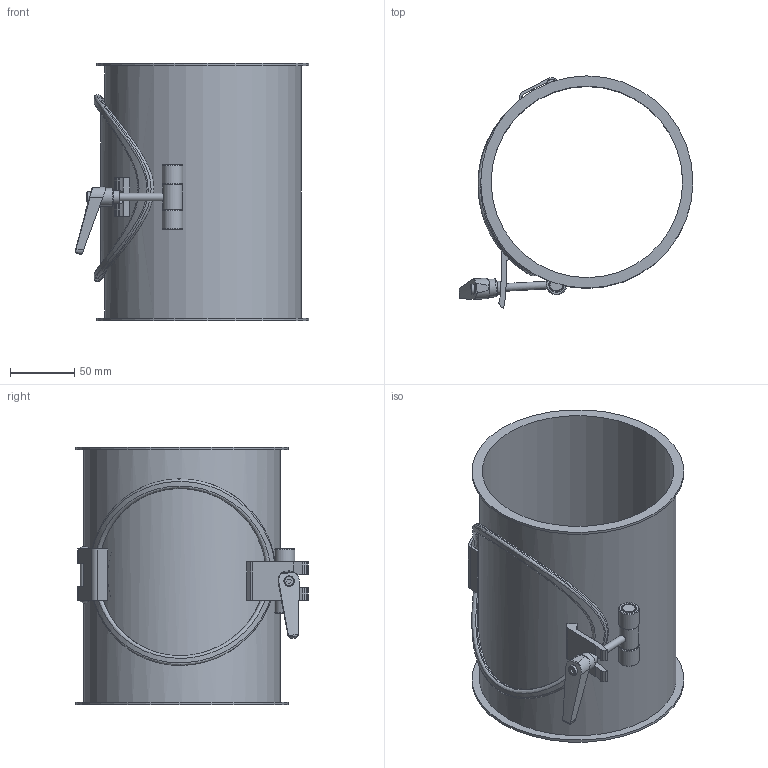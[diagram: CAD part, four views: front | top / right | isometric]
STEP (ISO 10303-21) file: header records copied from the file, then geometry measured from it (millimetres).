
FILE_DESCRIPTION((''),'2;1');
FILE_NAME('U:\Wolfgang\Marcel-3D\fertig\Kapitel 4\1521043.stp','2011-04-21T08:51:05',('TK1'),(''),'Autodesk Inventor 2010','Autodesk Inventor 2010','');
FILE_SCHEMA(('AUTOMOTIVE_DESIGN { 1 0 10303 214 1 1 1 1 }'));
Length unit declared in the file: millimetre
Products named in the file (12): 1521043 (Detailgenauigkeit1); 1521043-1; GelenkDeckel1c; Deckel152; Deckel1b; GelenkDeckel1a; dichtung; Halterung Deckel15; VerschlussB; Verschluss1; Verschluss2; Verstellbarer Klemmhebel GN 101-14-M6-SW
Assembly tree (12 placements, depth 3):
  1521043 (Detailgenauigkeit1)
    1521043-1
    GelenkDeckel1c
    Deckel152
      Deckel1b
      GelenkDeckel1a
      dichtung
      Halterung Deckel15
    VerschlussB
      Verschluss1  x2
      Verschluss2
    Verstellbarer Klemmhebel GN 101-14-M6-SW
Bounding box: 181.94 x 180.47 x 200 mm (x, y, z)
Volume: 238339.9 mm3; surface area: 243728.9 mm2
Topology: 10 solids, 10 shells, 130 faces, 295 edges, 193 vertices
Faces by surface type: plane 58, cylinder 43, cone 18, torus 5, bspline 4, sphere 2
Full cylindrical faces by diameter (mm): 4.8 x1, 6 x4, 8 x1, 10 x3, 11 x2, 14 x1, 15 x1, 16 x2, 115 x1, 130 x1, 135 x1, 145 x1, 149 x1, 153 x1, 165 x2
Entity records: 5595 total; most frequent: CARTESIAN_POINT 2678, DIRECTION 562, ORIENTED_EDGE 468, EDGE_CURVE 234, AXIS2_PLACEMENT_3D 224, EDGE_LOOP 177, VERTEX_POINT 173, FACE_OUTER_BOUND 122
